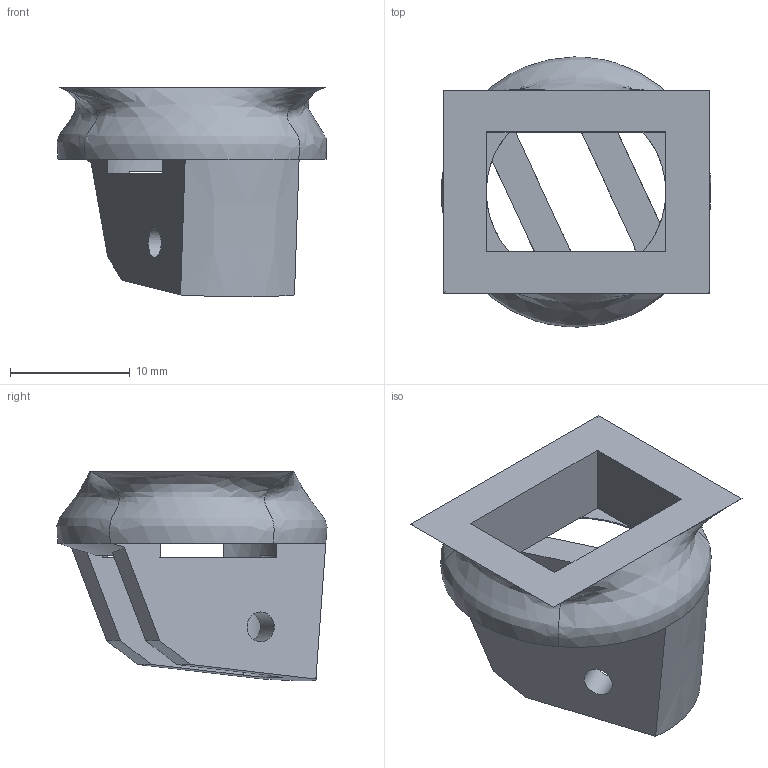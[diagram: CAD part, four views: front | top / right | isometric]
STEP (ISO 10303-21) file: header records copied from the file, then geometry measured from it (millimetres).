
FILE_DESCRIPTION(('HOOPS Exchange Step'),'2;1');
FILE_NAME('/Users/okancifci/Library/Containers/com.shapr3d.shapr/Data/tmp/export/temp_export','2025-02-13T00:53:03-21:00',('okancifci'),('Shapr3D Limited'),'HOOPS Exchange 2024.6','Shapr3D','Authorized');
FILE_SCHEMA( ('AP242_MANAGED_MODEL_BASED_3D_ENGINEERING_MIM_LF {1 0 10303 442 1 1 4 }') );
Length unit declared in the file: millimetre
Products named in the file (2): Thumb1.SLDPRT; root
Assembly tree (1 placements, depth 2):
  root
    Thumb1.SLDPRT
Bounding box: 22.52 x 22.57 x 17.5 mm (x, y, z)
Volume: 2271.3 mm3; surface area: 2230.6 mm2
Topology: 1 solids, 1 shells, 38 faces, 112 edges, 71 vertices
Faces by surface type: plane 27, cylinder 5, bspline 4, cone 2
Full cylindrical faces by diameter (mm): 2.5 x2, 15 x1
Entity records: 1841 total; most frequent: CARTESIAN_POINT 782, ORIENTED_EDGE 224, DIRECTION 195, EDGE_CURVE 112, VERTEX_POINT 71, AXIS2_PLACEMENT_3D 65, VECTOR 65, LINE 65
